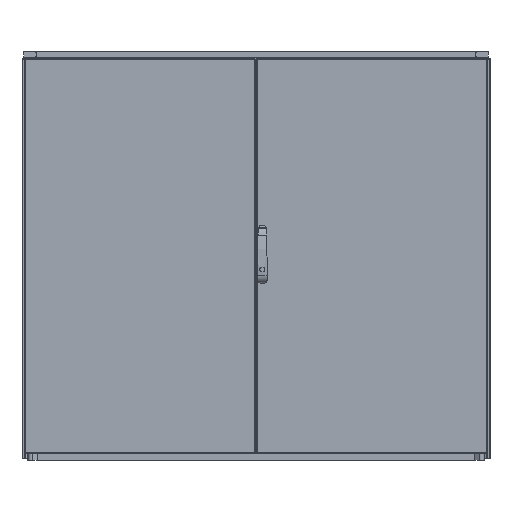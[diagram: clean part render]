
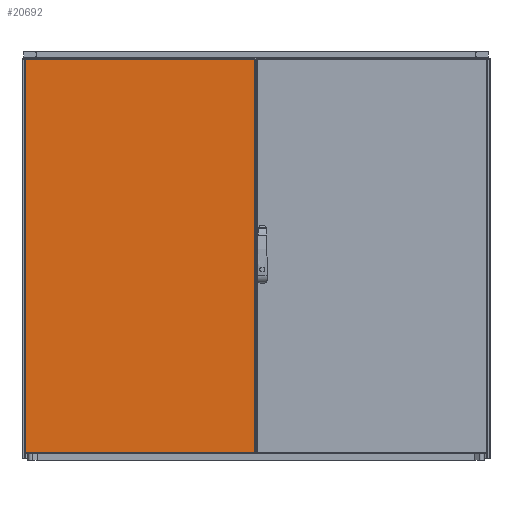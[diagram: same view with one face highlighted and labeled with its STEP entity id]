
A CAD part, front view. The second image highlights one B-rep face of the part: STEP entity #20692.
In plain terms, the highlighted planar face has unit normal (0, -1, 0).
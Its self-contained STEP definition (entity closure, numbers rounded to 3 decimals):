
#5437=ORIENTED_EDGE('',*,*,#9586,.T.);
#5438=ORIENTED_EDGE('',*,*,#9587,.T.);
#5439=ORIENTED_EDGE('',*,*,#9588,.T.);
#5440=ORIENTED_EDGE('',*,*,#9589,.T.);
#9586=EDGE_CURVE('',#11941,#11942,#13953,.F.);
#9587=EDGE_CURVE('',#11942,#11943,#13954,.F.);
#9588=EDGE_CURVE('',#11943,#11944,#13955,.F.);
#9589=EDGE_CURVE('',#11944,#11941,#13956,.F.);
#11941=VERTEX_POINT('',#33819);
#11942=VERTEX_POINT('',#33820);
#11943=VERTEX_POINT('',#33822);
#11944=VERTEX_POINT('',#33824);
#13953=LINE('',#33818,#15994);
#13954=LINE('',#33821,#15995);
#13955=LINE('',#33823,#15996);
#13956=LINE('',#33825,#15997);
#15994=VECTOR('',#27143,1000.);
#15995=VECTOR('',#27144,1000.);
#15996=VECTOR('',#27145,1000.);
#15997=VECTOR('',#27146,1000.);
#17502=EDGE_LOOP('',(#5437,#5438,#5439,#5440));
#18789=FACE_BOUND('',#17502,.T.);
#19705=PLANE('',#22518);
#20692=ADVANCED_FACE('',(#18789),#19705,.F.);
#22518=AXIS2_PLACEMENT_3D('',#33817,#27141,#27142);
#27141=DIRECTION('',(0.,1.,0.));
#27142=DIRECTION('',(0.,0.,1.));
#27143=DIRECTION('',(0.,0.,-1.));
#27144=DIRECTION('',(1.,0.,0.));
#27145=DIRECTION('',(0.,0.,1.));
#27146=DIRECTION('',(-1.,0.,0.));
#33817=CARTESIAN_POINT('',(0.,0.,0.));
#33818=CARTESIAN_POINT('',(394.5,0.,0.));
#33819=CARTESIAN_POINT('',(394.5,0.,-677.));
#33820=CARTESIAN_POINT('',(394.5,0.,677.));
#33821=CARTESIAN_POINT('',(0.,0.,677.));
#33822=CARTESIAN_POINT('',(-394.5,0.,677.));
#33823=CARTESIAN_POINT('',(-394.5,0.,0.));
#33824=CARTESIAN_POINT('',(-394.5,0.,-677.));
#33825=CARTESIAN_POINT('',(0.,0.,-677.));
